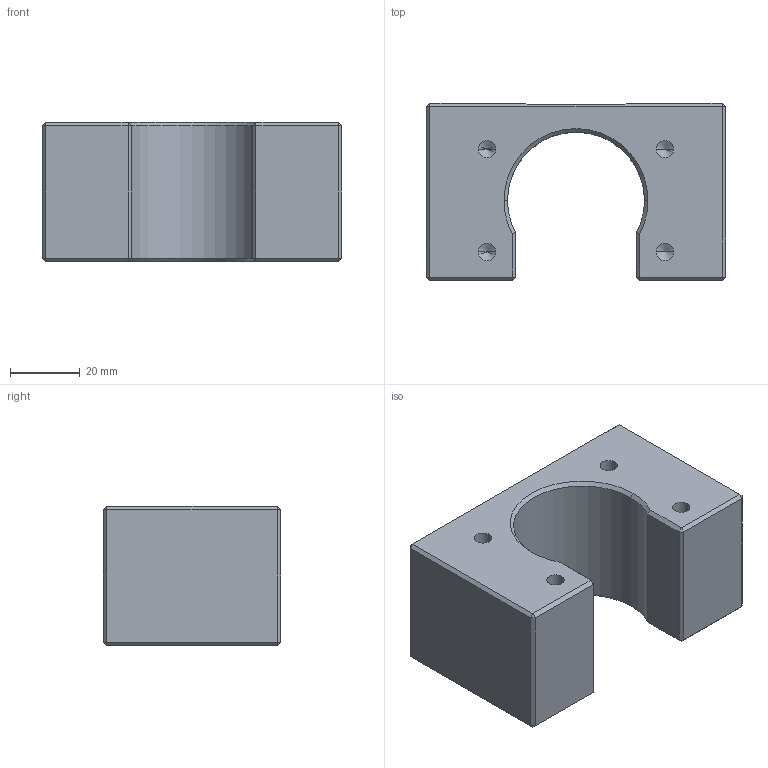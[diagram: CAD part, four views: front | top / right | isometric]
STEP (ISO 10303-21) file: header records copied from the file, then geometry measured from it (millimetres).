
FILE_DESCRIPTION (( 'STEP AP203' ), '1' );
FILE_NAME ('MC2020.STEP', '2008-06-09T03:08:59', ( '' ), ( '' ), 'SwSTEP 2.0', 'SolidWorks 2008', '' );
FILE_SCHEMA (( 'CONFIG_CONTROL_DESIGN' ));
Length unit declared in the file: millimetre
Products named in the file (1): MC2020
Bounding box: 86 x 51 x 40 mm (x, y, z)
Volume: 109612.4 mm3; surface area: 22911.3 mm2
Topology: 1 solids, 1 shells, 86 faces, 192 edges, 100 vertices
Faces by surface type: plane 45, cone 22, cylinder 19
Entity records: 2269 total; most frequent: DIRECTION 390, CARTESIAN_POINT 375, ORIENTED_EDGE 352, EDGE_CURVE 176, AXIS2_PLACEMENT_3D 131, VECTOR 128, LINE 128, VERTEX_POINT 100
